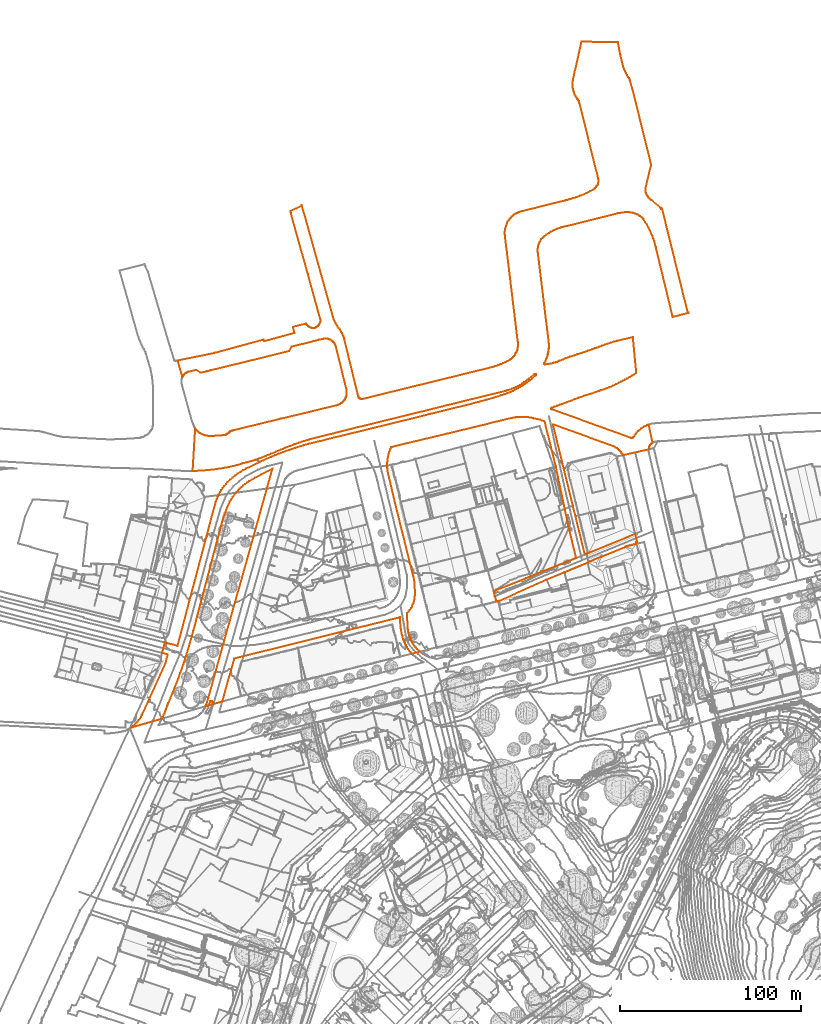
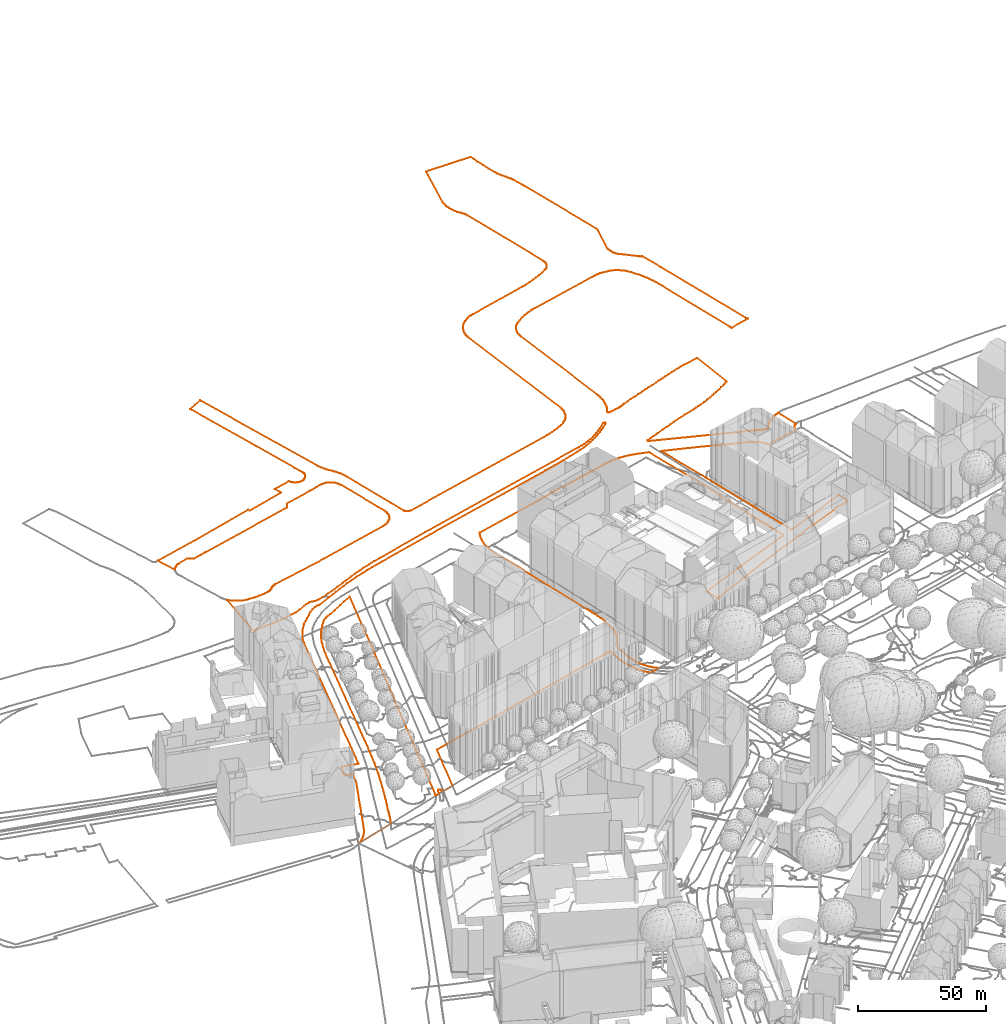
# Not in any storey, part 202 of 477: 1 civil element.
"""IFC4 model written with IfcOpenShell, lengths in metres."""

from ifc_helpers import new_model, entity, si_unit, frame, origin_with_axes, place, context, subcontext, project, spatial, element, save


model = new_model("IFC4")

# Units and contexts
model_context = context("Model", 3, precision=1e-05, world=origin_with_axes())
body_context = subcontext(model_context, "Body", "Model", "MODEL_VIEW")
ifc_project = project(units=[si_unit("AREAUNIT", "SQUARE_METRE"), si_unit("LENGTHUNIT", "METRE")], contexts=[model_context])

# Sites
site_1_placement = place(None, origin_with_axes())
site_1 = spatial("IfcSite", under=ifc_project, at=site_1_placement, Name="Topoexport Site")
site_2_placement = place(site_1_placement, origin_with_axes())
site_2 = spatial("IfcSite", under=site_1, at=site_2_placement, Name="TPX_ROADS_OUTLINES")

# Civil element
civil_element_placement = place(site_2_placement, frame((-10.1512679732, 310.0547160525, 537.6512851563), z_axis=(0.0, 0.0, 1.0), x_axis=(1.0, 0.0, 0.0)))
element("IfcCivilElement", 1, at=civil_element_placement, inside=site_2, Name="Roads Outline 34", ObjectType="ROAD", context=body_context, shape_type="GeometricCurveSet", body=[
    entity("IfcGeometricCurveSet", [entity("IfcIndexedPolyCurve", entity("IfcCartesianPointList3D", [[0.0, 0.0, 0.0], [0.8670000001, 0.669, 0.0089429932], [1.6949999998, 1.3869999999, 0.0363763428], [2.4810000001, 2.1499999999, 0.0765454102], [3.051, 2.763, 0.1040984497], [3.594, 3.4009999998, 0.1046825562], [4.1090000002, 4.0619999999, 0.0636929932], [4.7140000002, 4.922, 0.0192194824], [5.2710000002, 5.8129999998, 0.0365841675], [5.7779999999, 6.733, 0.0483882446], [6.2349999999, 7.6799999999, 0.0697880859], [18.8689999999, 35.4809999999, 1.0904096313], [20.1179999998, 40.2919999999, 1.2167286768], [16.9739999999, 41.0759999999, 1.17336604], [18.432, 46.844, 1.3276671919], [21.6039999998, 46.02, 1.4181245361], [25.429, 45.0119999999, 1.456082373], [26.6269999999, 49.365, 1.5816770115], [34.662, 79.7519999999, 2.5236961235], [46.1340000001, 123.017, 3.6771349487], [46.5639999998, 124.395, 3.6701641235], [47.0589999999, 125.7519999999, 3.6543026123], [47.6170000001, 127.0829999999, 3.6547387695], [48.2370000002, 128.3869999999, 3.6743029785], [48.9180000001, 129.6599999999, 3.6929160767], [49.6400000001, 130.8689999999, 3.7076178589], [50.4159999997, 132.0429999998, 3.7254657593], [51.247, 133.1809999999, 3.8168128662], [52.128, 134.2779999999, 3.8882485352], [53.0600000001, 135.334, 3.9201029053], [54.3810000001, 136.577, 3.9102858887], [55.7549999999, 137.7609999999, 4.0530762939], [57.1779999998, 138.885, 4.3659998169], [58.6489999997, 139.946, 4.9918496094], [60.1149999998, 140.9099999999, 4.9985690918], [61.6189999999, 141.811, 4.9278566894], [63.1600000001, 142.649, 4.4392829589], [64.7349999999, 143.422, 3.9509372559], [70.5979999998, 146.2779999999, 3.7033199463], [72.736, 147.2859999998, 3.6481663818], [74.8900000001, 148.26, 3.646453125], [77.0580000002, 149.2009999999, 3.6602123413], [79.2689999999, 150.121, 3.7079116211], [81.4950000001, 151.0060000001, 3.6710892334], [83.7340000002, 151.855, 3.6925402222], [86.943, 153.0189999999, 3.7093553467], [90.1779999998, 154.1099999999, 3.663611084], [92.7790000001, 154.929, 3.6443477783], [95.3939999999, 155.7, 3.6496758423], [98.023, 156.4239999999, 3.6569526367], [100.6639999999, 157.101, 3.6362383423], [125.6129999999, 163.196, 4.0201940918], [164.8479999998, 172.8640000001, 4.1583439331], [186.923, 178.335, 4.1709431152], [191.3649999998, 179.4719999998, 4.1554433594], [195.7859999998, 180.6850000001, 4.1503502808], [199.8909999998, 181.8839999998, 4.1589631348], [203.9759999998, 183.148, 4.1675013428], [205.673, 183.689, 4.1710839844], [207.3459999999, 184.297, 4.1745568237], [208.9950000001, 184.9709999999, 4.1780388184], [210.3420000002, 185.5789999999, 4.1808348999], [211.6680000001, 186.23, 4.1836468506], [212.9720000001, 186.925, 4.1863529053], [214.3109999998, 187.692, 4.1891915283], [215.6260000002, 188.4979999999, 4.1919215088], [216.9159999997, 189.344, 4.1946343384], [218.2459999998, 190.277, 4.1974195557], [219.5460000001, 191.2509999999, 4.2001173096], [220.8139999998, 192.267, 4.2027782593], [222.9890000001, 194.0719999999, 4.1901442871], [223.1090000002, 194.226, 4.1894338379], [223.1639999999, 194.4129999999, 4.1891082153], [223.145, 194.6069999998, 4.1892207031], [223.0559999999, 194.781, 4.1897476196], [222.9040000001, 194.912, 4.190647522], [222.7140000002, 194.9749999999, 4.1917723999], [222.514, 194.9609999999, 4.1929564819], [222.3339999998, 194.872, 4.1940221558], [219.3790000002, 192.4409999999, 4.199770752], [218.4550000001, 191.6969999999, 4.1978532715], [217.5079999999, 190.9819999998, 4.1958880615], [216.5409999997, 190.2949999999, 4.193833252], [215.4419999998, 189.5649999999, 4.1915396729], [214.3190000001, 188.872, 4.1892086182], [213.1740000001, 188.2169999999, 4.1867720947], [212.1409999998, 187.7079999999, 4.184628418], [211.091, 187.2349999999, 4.1824349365], [210.0249999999, 186.7989999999, 4.1801762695], [208.7689999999, 186.3399999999, 4.1775698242], [207.4959999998, 185.932, 4.1748772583], [206.2080000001, 185.5759999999, 4.1721942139], [166.551, 175.7949999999, 4.1663475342], [125.0460000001, 165.5619999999, 4.0132900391], [101.0099999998, 159.5959999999, 3.6335140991], [98.1269999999, 158.8100000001, 3.6561401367], [95.2650000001, 157.9539999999, 3.6484711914], [92.4249999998, 157.0259999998, 3.6461411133], [89.9670000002, 156.159, 3.6669594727], [87.5279999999, 155.2379999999, 3.707862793], [85.1099999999, 154.264, 3.6998468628], [82.517, 153.209, 3.6365668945], [79.9380000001, 152.1199999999, 3.6933616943], [77.0469999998, 150.9080000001, 3.6600948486], [74.139, 149.7390000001, 3.6508303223], [71.2939999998, 148.6469999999, 3.6884517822], [68.432, 147.598, 3.702182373], [66.2170000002, 146.895, 3.78446875], [63.983, 146.2549999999, 4.1421809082], [61.7319999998, 145.6769999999, 4.9096072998], [61.0069999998, 145.4549999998, 4.9770891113], [58.5460000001, 144.7519999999, 4.9816904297], [56.0660000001, 144.122, 4.1144448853], [53.8900000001, 143.6359999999, 3.915397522], [51.702, 143.2079999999, 3.8549672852], [49.5040000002, 142.8370000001, 3.705982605], [47.2769999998, 142.4949999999, 3.6473171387], [45.0439999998, 142.199, 3.6880111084], [42.8050000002, 141.9509999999, 3.7606665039], [40.27, 141.726, 3.705862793], [37.7310000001, 141.561, 3.7078386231], [35.1889999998, 141.4569999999, 3.5460402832], [34.5, 141.4399999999, 3.502178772], [33.8100000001, 141.4279999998, 3.4582852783], [35.233, 164.922, 3.5488413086], [35.7110000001, 164.3029999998, 3.5792706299], [36.2349999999, 163.7239999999, 3.6126282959], [36.804, 163.1869999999, 3.648850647], [37.4130000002, 162.6969999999, 3.6876142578], [38.0580000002, 162.2560000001, 3.728635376], [38.773, 161.848, 3.7425915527], [39.52, 161.5, 3.7318637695], [40.2930000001, 161.2149999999, 3.7050654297], [41.0869999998, 160.9949999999, 3.7348146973], [41.8960000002, 160.8419999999, 3.7485523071], [42.7149999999, 160.7560000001, 3.7589306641], [43.5389999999, 160.7379999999, 3.7603395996], [45.5159999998, 160.7789999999, 3.6753621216], [47.4909999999, 160.878, 3.6507628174], [49.4759999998, 161.037, 3.7056459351], [51.4559999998, 161.2560000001, 3.8357485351], [51.9100000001, 161.3469999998, 3.8712172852], [52.3509999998, 161.4849999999, 3.9044377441], [52.7749999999, 161.6709999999, 3.9138059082], [53.193, 161.912, 3.9230415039], [53.5819999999, 162.1979999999, 3.9212439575], [53.9369999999, 162.5259999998, 3.9145053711], [54.219, 162.821, 3.9091524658], [54.5299999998, 163.085, 3.9195165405], [54.8670000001, 163.3149999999, 3.9403939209], [55.2259999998, 163.51, 3.9626342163], [55.6030000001, 163.666, 4.0230826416], [55.9950000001, 163.7830000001, 4.1004346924], [56.466, 163.898, 4.1985598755], [82.2209999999, 170.193, 3.6301896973], [112.997, 177.541, 3.8668381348], [113.7140000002, 177.7579999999, 3.875546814], [114.409, 178.037, 3.8839882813], [115.077, 178.3769999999, 3.8921018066], [115.7119999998, 178.774, 3.8998378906], [116.2489999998, 179.1769999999, 3.9063930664], [116.7519999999, 179.622, 3.9125073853], [117.2179999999, 180.105, 3.9181674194], [117.645, 180.6229999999, 3.9233537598], [117.9670000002, 181.1949999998, 3.9272647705], [118.2390000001, 181.7919999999, 3.9305684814], [118.46, 182.409, 3.9332527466], [118.628, 183.044, 3.9352932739], [118.7409999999, 183.6899999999, 3.9366657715], [118.7990000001, 184.3419999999, 3.9373702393], [118.8020000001, 184.997, 3.9374066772], [118.75, 185.649, 3.9367750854], [118.6439999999, 186.2949999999, 3.9354876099], [117.8199999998, 189.6679999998, 3.9254793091], [112.8489999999, 209.8159999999, 3.8650405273], [112.6749999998, 210.425, 3.862927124], [112.4380000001, 211.0119999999, 3.860048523], [112.139, 211.571, 3.8564168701], [111.7820000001, 212.094, 3.8520807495], [111.372, 212.5759999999, 3.8471008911], [110.912, 213.0119999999, 3.8415137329], [110.409, 213.3969999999, 3.8354042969], [109.8670000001, 213.7249999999, 3.828821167], [109.3020000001, 213.99, 3.8219586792], [108.7110000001, 214.1939999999, 3.8147803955], [108.1030000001, 214.335, 3.8073956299], [107.483, 214.4109999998, 3.7998651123], [106.8590000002, 214.4209999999, 3.7922573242], [106.2370000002, 214.365, 3.7846533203], [105.6239999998, 214.2439999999, 3.7770955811], [103.5949999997, 213.7689999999, 3.7092557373], [101.7459999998, 213.2789999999, 3.6277446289], [100.6260000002, 212.996, 3.6365375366], [88.3199999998, 209.9669999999, 3.6943276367], [87.048, 207.523, 3.7098744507], [44.0600000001, 196.9890000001, 3.734454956], [43.8509999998, 196.9369999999, 3.7448386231], [41.665, 196.395, 3.7469873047], [41.4380000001, 196.3370000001, 3.7454494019], [38.1609999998, 195.548, 3.7351860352], [35.7569999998, 197.129, 3.5821989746], [31.645, 196.084, 3.316236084], [31.0989999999, 195.909, 3.2783486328], [30.5759999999, 195.6769999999, 3.2414475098], [30.0800000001, 195.3910000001, 3.206451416], [29.6170000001, 195.0529999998, 3.1737836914], [29.193, 194.6679999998, 3.1438676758], [28.8130000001, 194.2390000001, 3.1170561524], [28.48, 193.773, 3.093560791], [28.3369999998, 193.5359999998, 3.0834711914], [28.2069999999, 193.291, 3.0742988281], [25.608, 202.3189999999, 2.8909831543], [46.3199999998, 206.5699999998, 3.6776685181], [72.9819999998, 213.851, 3.6511993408], [73.23, 212.956, 3.654256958], [89.98, 217.541, 3.6667531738], [89.057, 220.8629999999, 3.6817324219], [96.4879999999, 222.6639999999, 3.6590380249], [96.733, 222.1939999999, 3.6600100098], [97.0359999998, 221.7589999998, 3.6612120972], [97.3939999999, 221.368, 3.6618666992], [97.7999999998, 221.027, 3.6586948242], [98.2459999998, 220.7409999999, 3.6552104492], [98.7259999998, 220.5160000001, 3.6514362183], [99.2310000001, 220.355, 3.647460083], [99.7909999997, 220.2619999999, 3.6430791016], [100.358, 220.2479999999, 3.638647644], [100.9219999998, 220.3119999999, 3.6342069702], [101.4720000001, 220.4539999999, 3.6298852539], [101.997, 220.6699999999, 3.6257836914], [102.4870000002, 220.9569999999, 3.6338460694], [102.932, 221.3089999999, 3.6638585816], [103.3250000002, 221.719, 3.6903640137], [103.6570000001, 222.179, 3.7135961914], [103.9219999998, 222.6809999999, 3.7321481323], [104.1149999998, 223.2149999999, 3.7456595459], [104.233, 223.77, 3.7539204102], [104.2719999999, 224.3359999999, 3.7566506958], [104.233, 224.9029999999, 3.7539204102], [104.1159999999, 225.4579999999, 3.7457295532], [103.051, 229.3019999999, 3.6718843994], [97.352, 249.8769999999, 3.6621948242], [87.9529999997, 283.6359999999, 3.7005996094], [87.6919999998, 284.5799999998, 3.7050600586], [90.8509999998, 286.2109999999, 3.6573278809], [93.9980000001, 287.8659999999, 3.6403365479], [94.1809999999, 287.3059999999, 3.6400014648], [111.2519999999, 226.247, 3.8456433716], [111.6540000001, 225.149, 3.850526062], [112.1090000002, 224.071, 3.8560524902], [112.6179999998, 223.0179999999, 3.8622348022], [113.1639999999, 222.047, 3.8688665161], [113.7579999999, 221.105, 3.8760812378], [114.3999999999, 220.1949999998, 3.8838789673], [115.0559999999, 219.307, 3.8918467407], [115.6499999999, 218.378, 3.8990810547], [116.1809999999, 217.4099999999, 3.9055629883], [116.5920000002, 216.5330000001, 3.9105640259], [116.9509999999, 215.6339999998, 3.9149244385], [117.2579999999, 214.716, 3.9186532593], [117.5109999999, 213.7819999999, 3.9217261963], [123.4780000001, 189.3659999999, 3.994201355], [124.5, 185.2069999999, 4.006625], [125.1310000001, 182.6439999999, 4.0143276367], [125.2379999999, 182.3159999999, 4.0156337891], [125.398, 182.0109999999, 4.0175827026], [125.6069999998, 181.736, 4.0201212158], [125.8599999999, 181.5009999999, 4.0231941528], [126.148, 181.3119999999, 4.0266921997], [126.497, 181.1629999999, 4.0309311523], [126.8670000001, 181.081, 4.0354251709], [127.2459999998, 181.0689999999, 4.0400285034], [127.6209999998, 181.1269999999, 4.0447614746], [197.6779999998, 198.398, 4.1543096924], [199.1800000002, 198.7759999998, 4.1574785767], [200.6659999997, 199.2120000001, 4.1605714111], [202.1340000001, 199.706, 4.1636669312], [203.5819999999, 200.2560000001, 4.1666837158], [204.9019999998, 200.8149999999, 4.1694579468], [206.2009999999, 201.422, 4.1721796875], [207.477, 202.075, 4.1748366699], [208.7289999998, 202.774, 4.1774868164], [209.3420000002, 203.2169999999, 4.1787589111], [209.9189999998, 203.7039999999, 4.1799562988], [210.4589999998, 204.233, 4.1810848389], [211.023, 204.8829999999, 4.1822896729], [211.5279999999, 205.578, 4.1833563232], [211.9720000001, 206.3149999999, 4.18427771], [212.3190000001, 207.014, 4.1849978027], [212.611, 207.737, 4.1856037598], [212.8459999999, 208.4809999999, 4.1860914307], [213.0219999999, 209.2409999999, 4.186456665], [213.139, 210.014, 4.1866994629], [213.196, 210.7929999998, 4.186817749], [213.1919999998, 211.575, 4.1868094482], [213.1260000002, 212.3540000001, 4.1866724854], [205.932, 271.564, 4.17162146], [205.8909999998, 272.3629999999, 4.171536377], [205.9019999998, 273.1629999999, 4.1715592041], [205.9649999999, 273.96, 4.1716899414], [206.0779999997, 274.7519999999, 4.1719244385], [206.2429999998, 275.5349999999, 4.1722668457], [206.4849999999, 276.3899999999, 4.172769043], [206.787, 277.226, 4.173395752], [207.1489999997, 278.037, 4.1741469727], [207.568, 278.821, 4.1750310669], [208.0430000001, 279.5719999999, 4.1760457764], [208.5649999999, 280.273, 4.1771464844], [209.1340000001, 280.9369999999, 4.1783272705], [209.747, 281.5600000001, 4.1795993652], [210.4019999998, 282.139, 4.1809630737], [211.0949999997, 282.672, 4.1824434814], [211.889, 283.1949999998, 4.1841054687], [212.7199999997, 283.6580000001, 4.1858299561], [213.5839999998, 284.0559999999, 4.1876384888], [214.4750000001, 284.388, 4.189532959], [215.389, 284.652, 4.1914296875], [239.622, 290.6769999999, 4.3113488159], [241.6359999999, 291.2109999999, 4.2204880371], [243.6319999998, 291.811, 4.1387678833], [245.5269999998, 292.449, 4.2065322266], [247.3999999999, 293.148, 4.2898087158], [249.253, 293.9209999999, 4.2669504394], [251.0789999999, 294.754, 4.2283382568], [252.9249999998, 295.672, 4.1892414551], [254.7390000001, 296.6529999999, 4.1508834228], [255.2909999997, 297.0249999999, 4.1391925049], [255.7969999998, 297.459, 4.1284758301], [256.247, 297.949, 4.1189451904], [256.6379999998, 298.4879999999, 4.116944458], [256.9619999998, 299.0699999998, 4.1166676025], [257.2050000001, 299.655, 4.1164599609], [257.3819999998, 300.263, 4.1163734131], [257.4899999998, 300.8869999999, 4.1164129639], [257.5279999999, 301.5189999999, 4.1164268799], [257.4950000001, 302.152, 4.1164147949], [257.392, 302.777, 4.1163770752], [247.1899999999, 343.8219999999, 4.2836207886], [246.983, 344.523, 4.2740313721], [246.7170000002, 345.2049999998, 4.2617087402], [246.395, 345.861, 4.2467918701], [246.111, 346.3469999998, 4.2336220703], [245.7949999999, 346.8129999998, 4.2189638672], [245.4509999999, 347.2579999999, 4.2030068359], [244.9330000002, 348.1189999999, 4.1816130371], [244.4810000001, 349.0149999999, 4.1636533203], [244.0959999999, 349.943, 4.1513137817], [243.781, 350.8969999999, 4.1427966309], [243.5380000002, 351.871, 4.1362262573], [243.3679999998, 352.855, 4.1316296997], [243.27, 353.8489999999, 4.1345723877], [243.2459999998, 354.8469999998, 4.1361983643], [243.2949999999, 355.845, 4.1328786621], [243.4180000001, 356.8359999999, 4.1329816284], [247.5439999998, 375.3729999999, 4.2892989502], [248.1260000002, 378.0089999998, 4.2872386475], [268.2519999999, 377.9679999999, 4.1200489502], [268.5970000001, 376.0249999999, 4.1201589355], [268.9649999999, 374.0870000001, 4.1202712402], [269.6430000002, 370.811, 4.1204973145], [270.3879999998, 367.55, 4.1207701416], [271.2009999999, 364.3049999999, 4.1210678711], [271.645, 363.1029999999, 4.1134963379], [272.1430000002, 361.922, 4.1014901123], [272.6949999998, 360.7660000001, 4.0868193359], [273.3089999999, 359.618, 4.0697304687], [273.9750000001, 358.5, 4.0511549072], [274.2919999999, 358.0249999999, 4.0423128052], [274.5669999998, 357.524, 4.0346422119], [274.7749999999, 357.0619999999, 4.0288404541], [274.9470000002, 356.585, 4.0240428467], [276.3459999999, 351.7179999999, 3.9868746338], [276.6630000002, 350.452, 4.012607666], [286.608, 310.4239999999, 4.0893053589], [283.483, 297.4039999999, 4.0209274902], [283.4619999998, 296.683, 4.0209813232], [283.5109999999, 295.9639999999, 4.0208557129], [283.6299999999, 295.2519999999, 4.0205506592], [283.818, 294.5559999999, 4.0200687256], [284.0720000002, 293.8810000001, 4.0194176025], [284.3909999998, 293.2339999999, 4.0207568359], [284.7560000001, 292.6439999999, 4.0325195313], [285.1749999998, 292.091, 4.0460224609], [285.6439999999, 291.5789999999, 4.0664623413], [286.159, 291.1140000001, 4.0917659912], [286.7149999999, 290.699, 4.0851583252], [291.5580000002, 286.7079999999, 3.904168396], [291.6770000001, 286.6029999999, 3.9101169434], [291.7889999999, 286.49, 3.9157155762], [292.0109999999, 286.2169999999, 3.9268128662], [292.1940000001, 285.9169999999, 3.9359606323], [292.6260000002, 286.0529999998, 3.9485460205], [295.1540000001, 275.9350000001, 4.0356655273], [306.693, 229.169, 4.0281467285], [306.7489999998, 228.976, 4.028088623], [306.8539999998, 228.8049999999, 4.0279796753], [306.9989999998, 228.666, 4.0278292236], [307.094, 228.6059999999, 4.0277306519], [307.1970000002, 228.561, 4.0276237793], [298.3629999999, 226.2679999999, 4.014569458], [298.3160000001, 226.8059999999, 4.0148764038], [298.2289999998, 227.3389999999, 4.0154445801], [289.1639999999, 264.726, 4.0282940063], [288.7829999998, 266.2929999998, 4.0460836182], [288.3429999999, 267.845, 4.0666280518], [287.8459999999, 269.3799999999, 4.0644221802], [287.2919999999, 270.895, 4.0627953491], [286.682, 272.388, 4.0864373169], [285.9389999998, 274.0209999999, 4.080956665], [285.128, 275.622, 4.0445078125], [284.2519999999, 277.1879999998, 4.0189561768], [283.3100000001, 278.716, 4.021083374], [282.3059999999, 280.203, 4.0084584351], [281.7609999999, 280.7779999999, 4.0015727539], [281.1779999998, 281.314, 3.998888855], [280.5580000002, 281.808, 4.0102792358], [279.906, 282.2579999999, 4.0175844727], [279.2239999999, 282.6609999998, 4.0261235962], [278.5060000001, 283.02, 4.0556166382], [277.7629999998, 283.328, 4.0650290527], [277.0010000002, 283.5829999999, 4.0400454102], [276.2229999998, 283.7830000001, 3.9884512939], [275.4330000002, 283.9269999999, 4.0104868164], [274.4350000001, 284.0279999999, 4.0383240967], [273.4339999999, 284.075, 4.0662450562], [272.4309999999, 284.067, 4.0941669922], [271.4300000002, 284.0049999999, 4.1186797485], [270.432, 283.889, 4.1207862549], [269.443, 283.7179999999, 4.1204240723], [268.4640000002, 283.493, 4.1201183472], [238.5099999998, 276.0859999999, 4.2189429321], [237.2990000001, 275.7709999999, 4.2299709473], [236.1030000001, 275.402, 4.2267376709], [234.9249999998, 274.9809999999, 4.1947260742], [233.7659999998, 274.507, 4.175425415], [232.6299999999, 273.983, 4.168843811], [231.3900000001, 273.3389999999, 4.1618052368], [230.1839999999, 272.635, 4.1549596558], [229.014, 271.871, 4.1531057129], [227.8829999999, 271.051, 4.1713060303], [227.213, 270.48, 4.1858686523], [226.5959999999, 269.8529999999, 4.1861699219], [226.0359999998, 269.1739999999, 4.1864433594], [225.5380000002, 268.4479999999, 4.1866865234], [225.1069999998, 267.6809999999, 4.1869105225], [224.7439999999, 266.879, 4.1871099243], [224.469, 266.0969999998, 4.1872609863], [224.2599999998, 265.2959999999, 4.1873926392], [224.1179999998, 264.48, 4.1875053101], [224.0439999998, 263.6539999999, 4.1875640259], [224.0389999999, 262.8259999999, 4.1875679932], [224.1030000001, 262.0, 4.1875172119], [230.0800000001, 212.9479999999, 4.1543693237], [230.1749999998, 212.1129999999, 4.1549085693], [230.2319999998, 211.274, 4.1552321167], [230.2519999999, 210.4339999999, 4.1553456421], [230.2289999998, 209.48, 4.1552150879], [230.1570000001, 208.5279999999, 4.1548063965], [230.037, 207.5819999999, 4.1541252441], [229.8700000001, 206.642, 4.1531773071], [229.5860000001, 205.4539999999, 4.1515652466], [229.2250000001, 204.287, 4.1510966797], [228.7889999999, 203.1459999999, 4.1552480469], [228.2799999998, 202.0349999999, 4.1609109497], [227.7000000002, 200.96, 4.1760977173], [227.6310000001, 200.8229999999, 4.1779044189], [227.6069999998, 200.6699999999, 4.1785328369], [227.6310000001, 200.5179999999, 4.1779044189], [227.7000000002, 200.3810000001, 4.1760977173], [227.821, 200.2609999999, 4.1729294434], [227.9750000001, 200.1879999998, 4.1688970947], [228.1439999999, 200.1709999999, 4.1644719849], [229.1519999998, 200.29, 4.151791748], [230.156, 200.4379999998, 4.1548007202], [231.3659999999, 200.6539999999, 4.1616690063], [232.568, 200.9109999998, 4.1684918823], [233.0830000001, 201.0459999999, 4.1714151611], [233.5929999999, 201.1969999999, 4.174390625], [234.1579999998, 201.3829999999, 4.1777701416], [234.716, 201.588, 4.1891387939], [235.4189999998, 201.8729999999, 4.2079927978], [236.1099999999, 202.1879999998, 4.2269295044], [237.929, 202.943, 4.2129970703], [239.7650000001, 203.6539999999, 4.3184621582], [241.949, 204.432, 4.2104775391], [244.1540000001, 205.1469999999, 4.152882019], [246.139, 205.797, 4.2349208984], [248.1209999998, 206.4569999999, 4.2872563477], [249.9509999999, 207.077, 4.2522053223], [251.7769999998, 207.706, 4.2135551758], [254.2289999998, 208.5729999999, 4.1616787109], [255.6340000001, 209.075, 4.1319280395], [257.0380000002, 209.5799999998, 4.1166026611], [258.2769999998, 210.03, 4.1167011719], [259.517, 210.476, 4.1170942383], [261.2039999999, 211.074, 4.1176586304], [262.8939999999, 211.6639999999, 4.1182354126], [264.5430000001, 212.2039999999, 4.1187996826], [266.2039999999, 212.706, 4.1193599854], [267.9539999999, 213.189, 4.1199398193], [269.716, 213.628, 4.1205240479], [276.5060000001, 215.2349999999, 3.999862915], [278.392, 195.5589999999, 4.0602993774], [278.1469999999, 195.402, 4.0635759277], [277.0550000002, 194.669, 4.0444289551], [275.9479999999, 193.9609999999, 3.9961218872], [274.696, 193.2, 4.0310440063], [273.426, 192.469, 4.0664682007], [272.253, 191.7989999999, 4.0988381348], [271.0669999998, 191.152, 4.1210187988], [269.9989999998, 190.594, 4.1206276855], [268.923, 190.0529999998, 4.1202584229], [267.3160000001, 189.2619999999, 4.1197069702], [265.6919999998, 188.5079999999, 4.1191724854], [263.679, 187.6339999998, 4.1184963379], [261.642, 186.817, 4.1178114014], [260.3429999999, 186.341, 4.117395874], [259.0359999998, 185.889, 4.1169359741], [258.3300000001, 185.656, 4.11672052], [257.6209999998, 185.4309999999, 4.1164609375], [252.8459999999, 183.875, 4.1909146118], [250.0109999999, 182.9639999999, 4.2509382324], [246.7110000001, 181.7609999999, 4.2614307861], [244.6719999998, 181.0219999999, 4.1712424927], [242.6349999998, 180.2749999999, 4.1775930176], [240.122, 179.341, 4.3362206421], [237.6140000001, 178.395, 4.2218602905], [236.3309999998, 177.9080000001, 4.2329250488], [235.0449999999, 177.4299999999, 4.197934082], [233.4529999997, 176.8529999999, 4.1735532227], [231.855, 176.291, 4.1644447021], [231.7140000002, 176.216, 4.1636443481], [231.605, 176.0989999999, 4.1630256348], [231.5389999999, 175.9539999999, 4.162651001], [231.523, 175.7949999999, 4.1625601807], [231.5550000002, 175.648, 4.1627418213], [231.6299999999, 175.5179999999, 4.1631675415], [231.7409999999, 175.416, 4.1637976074], [231.878, 175.3529999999, 4.1645752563], [275.5830000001, 159.6310000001, 4.0063028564], [275.7790000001, 159.5829999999, 4.0008358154], [275.9810000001, 159.5729999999, 3.995201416], [276.1809999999, 159.6029999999, 3.9896228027], [276.4270000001, 159.699, 3.9934499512], [276.642, 159.8529999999, 4.0109029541], [276.8109999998, 160.0559999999, 4.0246218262], [277.3769999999, 160.9379999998, 4.0664897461], [278.0010000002, 161.781, 4.064128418], [278.6779999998, 162.5799999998, 4.0485514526], [279.4070000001, 163.334, 4.0212392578], [280.1830000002, 164.0379999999, 4.0155556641], [281.0049999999, 164.689, 4.0020671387], [281.8670000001, 165.2849999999, 4.0029119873], [282.6710000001, 165.77, 4.0130490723], [283.503, 166.2069999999, 4.0208762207], [284.358, 166.594, 4.0196933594], [285.2349999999, 166.9299999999, 4.0479560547], [287.4180000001, 156.9299999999, 4.0618882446], [286.923, 156.5519999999, 4.0770968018], [286.4789999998, 156.115, 4.0943050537], [286.0920000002, 155.6269999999, 4.0884740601], [285.77, 155.094, 4.0726531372], [285.5159999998, 154.5259999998, 4.0601732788], [285.3339999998, 153.9299999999, 4.0512310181], [285.2280000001, 153.3159999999, 4.0477304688], [271.0929999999, 150.1499999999, 4.1210283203], [270.7590000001, 150.75, 4.1209060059], [270.3859999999, 151.3259999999, 4.1207694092], [269.9750000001, 151.8759999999, 4.1206188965], [269.4610000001, 152.4709999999, 4.1204306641], [268.9040000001, 153.0249999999, 4.1202526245], [268.307, 153.5359999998, 4.1200690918], [267.673, 154.0, 4.1198369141], [267.0049999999, 154.415, 4.1196120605], [266.3080000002, 154.7779999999, 4.1193980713], [265.5860000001, 155.088, 4.119133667], [247.6000000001, 161.635, 4.289100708], [232.4339999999, 167.139, 4.1677312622], [237.889, 144.9029999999, 4.2141225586], [238.5819999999, 142.078, 4.2257852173], [243.415, 122.3759999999, 4.1329005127], [244.8659999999, 116.4649999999, 4.13734403], [250.0409999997, 95.3669999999, 4.0410116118], [250.9939999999, 95.7589999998, 4.0310269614], [251.9219999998, 96.139, 4.050956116], [277.8279999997, 106.7549999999, 3.937032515], [278.8939999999, 102.3669999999, 3.8899862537], [278.3569999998, 102.1509999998, 3.8755734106], [278.5830000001, 101.236, 3.8691094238], [272.6099999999, 99.763, 3.9510791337], [272.6319999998, 99.672, 3.9517348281], [258.8900000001, 94.023, 4.1281978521], [258.8470000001, 94.1140000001, 4.1305269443], [253.1489999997, 91.7789999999, 4.0545066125], [253.1880000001, 91.581, 4.0490175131], [252.1269999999, 91.138, 4.0342355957], [238.7549999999, 85.5689999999, 4.2192755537], [229.048, 81.527, 4.117421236], [202.6299999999, 69.7379999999, 4.1392711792], [202.2799999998, 69.648, 4.137285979], [201.9300000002, 69.558, 4.1251467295], [201.943, 69.5060000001, 4.1210992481], [201.372, 69.3659999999, 4.1032618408], [200.5529999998, 72.2509999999, 4.3138225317], [199.7349999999, 75.139, 4.283235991], [199.8279999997, 75.176, 4.2957492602], [217.7429999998, 82.3319999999, 4.4066528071], [219.966, 83.2169999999, 4.385454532], [220.3080000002, 83.3540000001, 4.3631192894], [220.5460000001, 83.4479999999, 4.3604364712], [220.5049999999, 83.55, 4.3712363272], [244.9640000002, 93.371, 4.2151900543], [245.1060000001, 93.46, 4.2142494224], [245.193, 93.6040000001, 4.2181191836], [245.2039999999, 93.7719999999, 4.2111651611], [241.051, 110.8199999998, 4.3794201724], [234.0529999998, 143.7519999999, 4.1771420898], [227.9130000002, 168.7749999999, 4.1705205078], [226.577, 169.219, 4.1861791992], [225.2289999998, 169.625, 4.1868435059], [223.8700000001, 169.9919999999, 4.1877020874], [222.1839999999, 170.3899999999, 4.1954766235], [220.4849999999, 170.7290000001, 4.2020754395], [218.7749999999, 171.0079999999, 4.198517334], [217.443, 171.132, 4.1957531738], [216.1069999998, 171.1939999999, 4.1929196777], [214.7689999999, 171.1939999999, 4.1901430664], [213.4330000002, 171.1329999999, 4.187315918], [212.2140000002, 171.023, 4.1847799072], [211.0, 170.862, 4.1822405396], [209.7949999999, 170.6499999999, 4.1796989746], [208.5989999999, 170.388, 4.177217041], [174.102, 161.9719999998, 4.201835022], [143.645, 154.7009999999, 3.9785170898], [143.486, 154.673, 3.9787111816], [143.344, 154.598, 3.9788845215], [143.2319999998, 154.4819999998, 3.9734382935], [143.162, 154.3370000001, 3.969494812], [142.6460000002, 153.1339999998, 3.9404257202], [142.2000000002, 151.9029999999, 3.9245908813], [141.827, 150.648, 3.9304417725], [141.5269999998, 149.3729999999, 3.935147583], [141.3020000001, 148.0829999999, 3.9375464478], [141.1529999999, 146.7830000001, 3.9336450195], [141.0800000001, 145.4749999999, 3.9317335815], [141.0819999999, 144.166, 3.9317859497], [141.1609999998, 142.8589999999, 3.9338544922], [141.3160000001, 141.5589999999, 3.9379130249], [141.5460000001, 140.27, 3.9348495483], [141.8509999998, 138.997, 3.9300653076], [144.6740000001, 127.037, 3.9839782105], [153.6859999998, 90.361, 3.3690732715], [154.6779999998, 86.51, 3.2861928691], [155.1159999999, 84.9099999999, 3.2871115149], [155.517, 83.301, 3.2231961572], [155.8829999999, 81.683, 3.1645708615], [156.071, 80.155, 3.1428586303], [156.2089999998, 78.621, 3.1313129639], [156.2949999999, 77.084, 3.0931142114], [156.3289999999, 75.5449999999, 3.0322282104], [156.3130000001, 74.0049999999, 3.003159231], [156.3119999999, 72.925, 2.9894496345], [156.2319999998, 71.8469999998, 2.9718764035], [156.0729999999, 70.7779999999, 2.9477612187], [155.835, 69.7239999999, 2.9548809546], [155.5210000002, 68.6909999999, 2.9168862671], [155.1310000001, 67.683, 2.8591466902], [154.6680000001, 66.7069999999, 2.8247343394], [154.1349999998, 65.767, 2.805602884], [153.5329999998, 64.8699999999, 2.7755603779], [152.8679999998, 64.0189999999, 2.7268697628], [152.1409999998, 63.219, 2.6912323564], [152.1379999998, 60.872, 2.6506004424], [152.1830000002, 58.5249999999, 2.5753048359], [152.2760000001, 56.1799999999, 2.5398234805], [152.3449999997, 55.05, 2.4973386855], [152.4840000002, 53.9269999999, 2.458589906], [152.6919999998, 52.8149999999, 2.409139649], [152.9679999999, 51.7169999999, 2.3577866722], [153.25, 50.6599999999, 2.3386859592], [153.5949999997, 49.6229999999, 2.3551382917], [154.0010000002, 48.6069999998, 2.359607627], [154.466, 47.6169999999, 2.3351465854], [154.9899999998, 46.6569999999, 2.2979001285], [155.5699999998, 45.73, 2.2930156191], [156.2029999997, 44.838, 2.2823085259], [156.889, 43.986, 2.2765553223], [157.6239999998, 43.1769999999, 2.2746829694], [158.406, 42.412, 2.2779687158], [158.7420000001, 42.1099999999, 2.2706716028], [159.0839999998, 41.8159999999, 2.2686815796], [154.6899999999, 40.7139999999, 2.2981754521], [153.9300000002, 41.5629999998, 2.2973755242], [153.2149999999, 42.45, 2.276894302], [152.548, 43.3729999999, 2.2977174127], [151.9300000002, 44.3299999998, 2.3016631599], [151.3629999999, 45.317, 2.3103928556], [150.8479999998, 46.3329999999, 2.3415378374], [150.3870000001, 47.375, 2.3534585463], [149.8909999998, 48.831, 2.3611344], [149.46, 50.308, 2.3930782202], [149.094, 51.8019999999, 2.4255048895], [148.7949999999, 53.311, 2.4421197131], [148.5619999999, 54.8319999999, 2.4480003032], [148.3960000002, 56.361, 2.5070377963], [148.298, 57.8959999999, 2.5462127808], [148.267, 59.4339999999, 2.5701785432], [148.304, 60.9719999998, 2.5936525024], [147.537, 60.6879999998, 2.6243904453], [146.7549999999, 60.4449999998, 2.6305949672], [56.7769999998, 38.031, 1.5211082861], [50.1359999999, 14.325, 0.9753485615], [44.5929999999, 12.7409999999, 0.8892817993], [44.6919999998, 13.0969999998, 0.9074108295], [44.784, 13.4539999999, 0.9177357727], [44.852, 13.6739999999, 0.9201452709], [44.852, 13.9039999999, 0.9342264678], [44.7820000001, 14.1229999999, 0.9525208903], [44.6510000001, 14.3119999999, 0.9693486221], [44.469, 14.453, 0.9816379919], [44.253, 14.5330000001, 0.9975042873], [44.023, 14.5449999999, 1.0288674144], [43.7999999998, 14.487, 1.0554516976], [43.605, 14.3659999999, 1.0706472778], [43.4539999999, 14.1909999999, 1.0709993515], [43.3629999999, 13.98, 1.0571191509], [43.0890000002, 13.0829999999, 0.9933518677], [42.986, 12.6639999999, 0.9765689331], [42.8679999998, 12.2479999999, 0.9601228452], [40.9980000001, 11.7139999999, 0.8983375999], [41.2280000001, 12.2879999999, 0.8875606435], [41.4279999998, 12.8729999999, 0.8980458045], [42.4980000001, 16.588, 1.0525966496], [50.4580000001, 45.1339999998, 1.6448748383], [51.2429999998, 47.916, 1.6645747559], [68.5150000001, 109.375, 3.4488331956], [77.79, 142.6439999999, 3.6723359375], [74.6349999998, 141.0759999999, 3.6479472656], [71.5099999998, 139.45, 3.6796395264], [68.2110000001, 137.648, 3.7075959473], [64.9479999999, 135.781, 3.911961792], [63.8420000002, 135.0489999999, 4.1898406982], [62.7680000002, 134.27, 4.6156638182], [61.7289999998, 133.446, 4.9100917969], [60.7259999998, 132.578, 4.9791815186], [59.7599999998, 131.6679999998, 5.0258267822], [58.835, 130.7179999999, 5.0101953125], [57.807, 129.557, 4.6686055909], [56.8369999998, 128.3459999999, 4.285807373], [55.9300000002, 127.088, 4.0876084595], [55.0860000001, 125.7859999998, 3.9539611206], [54.3089999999, 124.4439999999, 3.9074440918], [53.5559999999, 122.852, 3.9217374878], [52.8459999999, 121.24, 3.9153746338], [52.179, 119.6099999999, 3.8922329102], [51.557, 117.9620000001, 3.8436391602], [50.872, 115.9749999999, 3.7736814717], [50.25, 113.9669999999, 3.6982843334], [49.693, 111.9409999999, 3.6228195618], [42.7560000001, 85.676, 2.8718146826], [36.176, 60.8419999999, 1.991590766], [35.6170000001, 58.6679999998, 1.9186565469], [35.0439999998, 56.497, 1.8634898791], [34.1469999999, 53.1899999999, 1.8150981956], [33.2229999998, 49.8899999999, 1.7363998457], [32.1439999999, 46.0549999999, 1.5625097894], [31.0090000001, 42.237, 1.4270525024], [29.9389999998, 38.8019999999, 1.3266178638], [28.8250000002, 35.3799999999, 1.2780784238], [27.9029999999, 32.7619999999, 1.182429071], [26.9649999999, 30.1499999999, 1.148643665], [25.9509999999, 27.3769999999, 1.0788792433], [24.9189999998, 24.6099999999, 1.0010438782], [23.8169999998, 21.7649999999, 0.9327699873], [22.6869999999, 18.9309999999, 0.8178220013], [21.5589999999, 16.1850000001, 0.7457910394], [20.406, 13.449, 0.6643082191], [20.105, 12.648, 0.6606423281], [19.801, 11.848, 0.6316295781], [19.4840000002, 11.0209999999, 0.6103966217], [19.1630000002, 10.196, 0.5715125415], [18.8969999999, 9.459, 0.5133327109], [18.6159999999, 8.7279999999, 0.4845029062], [18.2340000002, 7.797, 0.4721505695], [17.8279999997, 6.8759999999, 0.4365164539], [17.3149999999, 5.831, 0.3821108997], [16.7949999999, 4.7889999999, 0.3313979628], [0.0, 0.0, 0.0]]))]),
])

save(model, "model.ifc")
